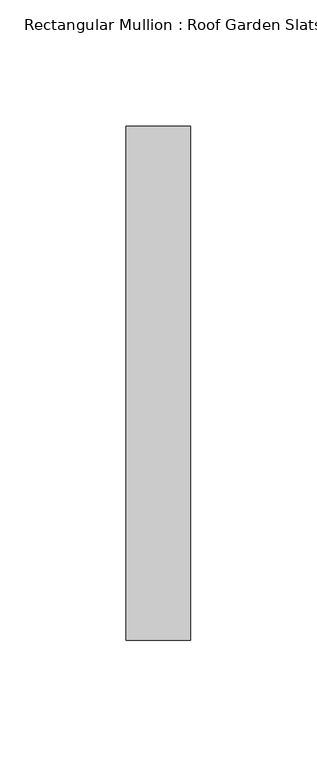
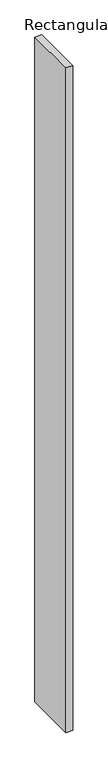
"""IFC4 building model written with IfcOpenShell, lengths in millimetres: member geometry, Rectangular Mullion : Roof Garden Slats."""

import ifcopenshell
import ifcopenshell.guid

model = None  # the IFC model being written
_history = None  # IfcOwnerHistory: only IFC2X3 demands one
_inside = {}  # id of a spatial element -> (the spatial element, [elements in it])
_under = {}  # id of a project, library or spatial element -> (it, [spatial elements below it])
_declared = {}  # id of a project -> (the project, [libraries it declares])
_typed = {}  # id of a type object -> (the type object, [elements of that type])
_made_of = {}  # id of a material, layer set ... -> (it, [elements and type objects made of it])


def new_model(schema):
    """Start an empty IFC model of exactly this schema.

    Asked for "IFC4X3", IfcOpenShell would pick the latest addendum, in which some entities
    have other attributes; the version numbers below select the first issue.
    IFC2X3 requires an IfcOwnerHistory on every rooted entity: one is made here for all.
    """
    global model, _history
    if schema == "IFC4X3":
        model = ifcopenshell.file(schema_version=(4, 3, 0, 0))
    else:
        model = ifcopenshell.file(schema=schema)
    _inside.clear()
    _under.clear()
    _declared.clear()
    _typed.clear()
    _made_of.clear()
    _history = None
    if model.schema == "IFC2X3":
        org = make("IfcOrganization", Name="unknown")
        user = make(
            "IfcPersonAndOrganization",
            ThePerson=make("IfcPerson", FamilyName="unknown"),
            TheOrganization=org,
        )
        app = make(
            "IfcApplication",
            ApplicationDeveloper=org,
            Version="unknown",
            ApplicationFullName="unknown",
            ApplicationIdentifier="unknown",
        )
        _history = make(
            "IfcOwnerHistory",
            OwningUser=user,
            OwningApplication=app,
            ChangeAction="ADDED",
            CreationDate=0,
        )
    return model


def make(cls, **values):
    """One entity of the class cls with the attributes given. An attribute that is None is left unset."""
    return model.create_entity(
        cls, **{name: value for name, value in values.items() if value is not None}
    )


def rooted(cls, **values):
    """An entity with a GlobalId (a new one), such as an element, a storey or a relation."""
    return make(cls, GlobalId=ifcopenshell.guid.new(), OwnerHistory=_history, **values)


def si_unit(unit_type, name, prefix=None):
    """IfcSIUnit, for example si_unit("LENGTHUNIT", "METRE", prefix="MILLI")."""
    return make("IfcSIUnit", UnitType=unit_type, Prefix=prefix, Name=name)


def assignment(units):
    """IfcUnitAssignment: the units of a project."""
    return None if units is None else make("IfcUnitAssignment", Units=units)


def point(xyz):
    """IfcCartesianPoint."""
    return None if xyz is None else make("IfcCartesianPoint", Coordinates=xyz)


def direction(xyz):
    """IfcDirection."""
    return None if xyz is None else make("IfcDirection", DirectionRatios=xyz)


def frame(location, z_axis=None, x_axis=None):
    """IfcAxis2Placement3D, a coordinate frame: its origin and axes. An axis left out is left unset."""
    return make(
        "IfcAxis2Placement3D",
        Location=point(location),
        Axis=direction(z_axis),
        RefDirection=direction(x_axis),
    )


def origin():
    """The frame at (0, 0, 0) with its axes left unset."""
    return frame((0.0, 0.0, 0.0))


def place(relative_to, where):
    """IfcLocalPlacement: puts the frame where relative to a parent placement (None: the world)."""
    return make(
        "IfcLocalPlacement", PlacementRelTo=relative_to, RelativePlacement=where
    )


def context(
    kind, dimensions, precision=None, world=None, true_north=None, identifier=None
):
    """IfcGeometricRepresentationContext, for example the 3D "Model" context."""
    return make(
        "IfcGeometricRepresentationContext",
        ContextIdentifier=identifier,
        ContextType=kind,
        CoordinateSpaceDimension=dimensions,
        Precision=precision,
        WorldCoordinateSystem=world,
        TrueNorth=true_north,
    )


def project(units=None, contexts=None):
    """IfcProject with its units and contexts."""
    return rooted(
        "IfcProject",
        Name="project",
        RepresentationContexts=contexts,
        UnitsInContext=assignment(units),
    )


def spatial(cls, under=None, at=None, **own):
    """A site, building, storey or space (cls), placed at a placement, below another one or the project."""
    s = rooted(cls, ObjectPlacement=at, **own)
    if under is not None:
        _under.setdefault(under.id(), (under, []))[1].append(s)
    return s


def polyline(points):
    """IfcPolyline through the points."""
    return make("IfcPolyline", Points=[point(p) for p in points])


def outline(outer, holes=None, kind="AREA"):
    """IfcArbitraryClosedProfileDef: a profile drawn as a closed curve; with holes, ...WithVoids."""
    if holes is None:
        return make("IfcArbitraryClosedProfileDef", ProfileType=kind, OuterCurve=outer)
    return make(
        "IfcArbitraryProfileDefWithVoids",
        ProfileType=kind,
        OuterCurve=outer,
        InnerCurves=holes,
    )


def extrude(swept, where, along, depth):
    """IfcExtrudedAreaSolid: the profile swept, set in the frame where, extruded along a direction by depth."""
    return make(
        "IfcExtrudedAreaSolid",
        SweptArea=swept,
        Position=where,
        ExtrudedDirection=direction(along),
        Depth=depth,
    )


def shape(context_of_items, identifier, shape_type, items):
    """IfcShapeRepresentation: the items that make up one representation, for example the "Body"."""
    return make(
        "IfcShapeRepresentation",
        ContextOfItems=context_of_items,
        RepresentationIdentifier=identifier,
        RepresentationType=shape_type,
        Items=items,
    )


def source(mapping_origin, context_of_items, identifier, shape_type, items):
    """IfcRepresentationMap: a shape defined once, which mapped items show again and again."""
    return make(
        "IfcRepresentationMap",
        MappingOrigin=mapping_origin,
        MappedRepresentation=shape(context_of_items, identifier, shape_type, items),
    )


def transform(
    local_origin,
    x_axis=None,
    y_axis=None,
    z_axis=None,
    scale=None,
    scale2=None,
    scale3=None,
    uniform=True,
):
    """IfcCartesianTransformationOperator3D, or its non-uniform kind. x_axis, y_axis, z_axis: its Axis1, 2, 3."""
    if uniform:
        return make(
            "IfcCartesianTransformationOperator3D",
            Axis1=direction(x_axis),
            Axis2=direction(y_axis),
            LocalOrigin=point(local_origin),
            Scale=scale,
            Axis3=direction(z_axis),
        )
    return make(
        "IfcCartesianTransformationOperator3DnonUniform",
        Axis1=direction(x_axis),
        Axis2=direction(y_axis),
        LocalOrigin=point(local_origin),
        Scale=scale,
        Axis3=direction(z_axis),
        Scale2=scale2,
        Scale3=scale3,
    )


def mapped(mapping_source, mapping_target):
    """IfcMappedItem: shows the shape of a source again, moved by a transform."""
    return make(
        "IfcMappedItem", MappingSource=mapping_source, MappingTarget=mapping_target
    )


def made_of(thing, what):
    """Note that an element or type object is made of a material, layer set ...; save() writes the relation."""
    if what is not None:
        _made_of.setdefault(what.id(), (what, []))[1].append(thing)
    return thing


def element(
    cls,
    number,
    at=None,
    inside=None,
    cuts=None,
    type_object=None,
    material=None,
    context=None,
    identifier="Body",
    shape_type=None,
    held_by="IfcProductDefinitionShape",
    body=None,
    shapes=None,
    **own,
):
    """One element of the class cls, such as IfcWall. Its Tag is "e" and its number.

    at: its placement. inside: the storey or other place that contains it. cuts: it is an
    opening in that element (IfcRelVoidsElement). A single representation is given by context,
    identifier, shape_type and body (its items); several are given by shapes. held_by: the class
    of the entity that holds the representations. save() writes the other relations.
    """
    e = rooted(cls, Tag="e%d" % number, ObjectPlacement=at, **own)
    if body is not None:
        shapes = [shape(context, identifier, shape_type, body)]
    if shapes is not None:
        e.Representation = make(held_by, Representations=shapes)
    if inside is not None:
        _inside.setdefault(inside.id(), (inside, []))[1].append(e)
    if cuts is not None:
        rooted(
            "IfcRelVoidsElement", RelatingBuildingElement=cuts, RelatedOpeningElement=e
        )
    if type_object is not None:
        _typed.setdefault(type_object.id(), (type_object, []))[1].append(e)
    return made_of(e, material)


def aggregate(whole, parts):
    """IfcRelAggregates: a whole, such as a stair, and the parts it consists of."""
    return rooted("IfcRelAggregates", RelatingObject=whole, RelatedObjects=parts)


def save(model, path):
    """Write the relations noted so far, then the file.

    IfcRelAggregates (storeys below a building ...), IfcRelContainedInSpatialStructure (elements
    in a storey), IfcRelDefinesByType, IfcRelAssociatesMaterial and IfcRelDeclares: one each for
    every whole, place, type object, material and project.
    """
    for whole, parts in _under.values():
        aggregate(whole, parts)
    for where, things in _inside.values():
        rooted(
            "IfcRelContainedInSpatialStructure",
            RelatedElements=things,
            RelatingStructure=where,
        )
    for kind, things in _typed.values():
        rooted("IfcRelDefinesByType", RelatedObjects=things, RelatingType=kind)
    for what, things in _made_of.values():
        rooted("IfcRelAssociatesMaterial", RelatedObjects=things, RelatingMaterial=what)
    for by, libraries in _declared.values():
        rooted("IfcRelDeclares", RelatingContext=by, RelatedDefinitions=libraries)
    model.write(path)


def rectangular_mullion_roof_garden_slats_747d0a40(model_context):
    return source(origin(), model_context, "Body", "SweptSolid", [
        extrude(outline(polyline([(12.7, 139.7), (12.7, -63.5), (-12.7, -63.5), (-12.7, 139.7), (12.7, 139.7)])), frame((0.0, 0.0, -2656.1283811), z_axis=(0.0, 0.0, 1.0), x_axis=(1.0, 0.0, 0.0)), (0.0, 0.0, 1.0), 2656.1283811),
    ])


if __name__ == "__main__":
    model = new_model("IFC4")
    model_context = context("Model", 3, world=origin())
    ifc_project = project(units=[si_unit("LENGTHUNIT", "METRE", prefix="MILLI")], contexts=[model_context])
    site = spatial("IfcSite", under=ifc_project)
    building = spatial("IfcBuilding", under=site)
    placement = place(None, origin())
    rectangular_mullion_roof_garden_slats_shape = rectangular_mullion_roof_garden_slats_747d0a40(model_context)
    element("IfcMember", 1, ObjectType="Rectangular Mullion : Roof Garden Slats", at=placement, inside=building, context=model_context, shape_type="MappedRepresentation", body=[
        mapped(rectangular_mullion_roof_garden_slats_shape, transform((0.0, 0.0, 0.0), x_axis=(1.0, 0.0, 0.0), y_axis=(0.0, 1.0, 0.0), z_axis=(0.0, 0.0, 1.0))),
    ])
    save(model, "model.ifc")
